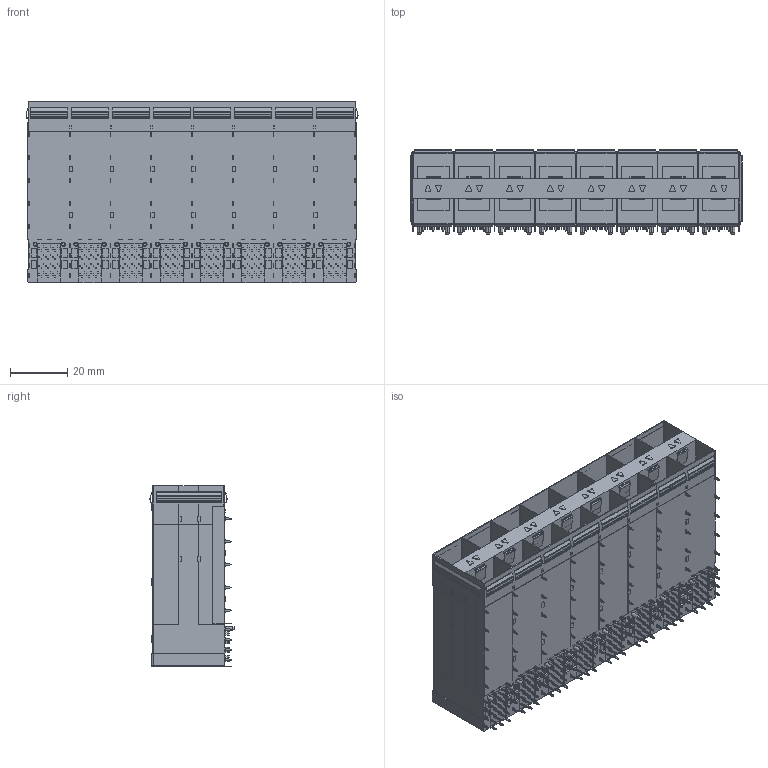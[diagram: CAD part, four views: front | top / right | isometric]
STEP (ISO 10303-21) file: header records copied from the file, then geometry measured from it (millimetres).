
FILE_DESCRIPTION (( 'STEP AP214' ), '1' );
FILE_NAME ('SFP28 2X8 有月牙 内灯(上下) 3D.STEP', '2025-06-13T00:23:30', ( '桑三博客' ), ( 'Www.SangSan.Cn' ), 'SwSTEP 2.0', 'SolidWorks 2018', '' );
FILE_SCHEMA (( 'AUTOMOTIVE_DESIGN' ));
Products named in the file (1): SFP28 2X8 衄堎挴 囀腑(奻狟)  3D
Bounding box: 116.06 x 29.38 x 63.5 mm (x, y, z)
Volume: 92868 mm3; surface area: 65236.1 mm2
Topology: 1 solids, 1 shells, 5744 faces, 15947 edges, 10770 vertices
Faces by surface type: plane 3998, cylinder 1712, cone 32, sphere 2
Entity records: 183807 total; most frequent: CARTESIAN_POINT 32460, ORIENTED_EDGE 31890, DIRECTION 30895, EDGE_CURVE 15945, VECTOR 12485, LINE 12485, VERTEX_POINT 10770, AXIS2_PLACEMENT_3D 9205
